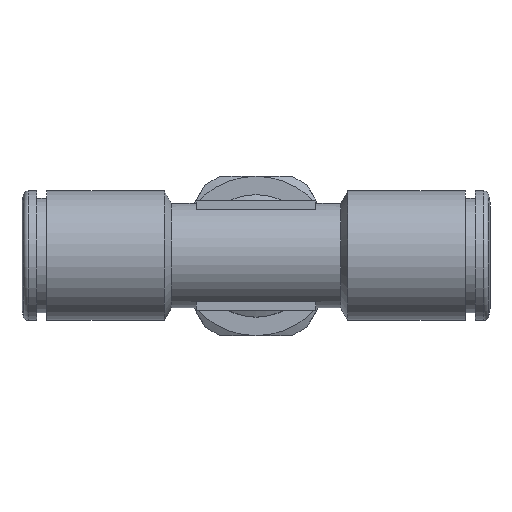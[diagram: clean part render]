
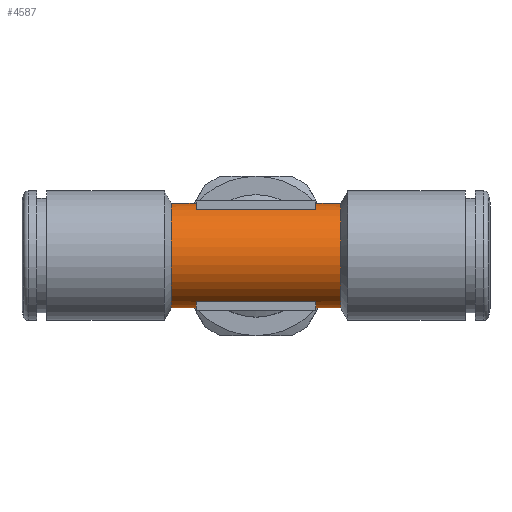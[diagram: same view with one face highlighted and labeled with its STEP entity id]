
A CAD part, top view. The second image highlights one B-rep face of the part: STEP entity #4587.
In plain terms, the highlighted cylindrical face has radius 5.25 mm (diameter 10.5 mm), a full revolution.
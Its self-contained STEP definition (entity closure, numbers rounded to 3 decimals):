
#12=ELLIPSE('',#4411,7.425,5.25);
#13=ELLIPSE('',#4414,7.425,5.25);
#1094=VECTOR('',#3549,1.);
#1095=VECTOR('',#3552,1.);
#1096=VECTOR('',#3555,1.);
#1097=VECTOR('',#3558,1.);
#1098=VECTOR('',#3561,1.);
#1099=VECTOR('',#3564,1.);
#1148=LINE('',#4043,#1094);
#1149=LINE('',#4047,#1095);
#1150=LINE('',#4051,#1096);
#1151=LINE('',#4055,#1097);
#1152=LINE('',#4059,#1098);
#1153=LINE('',#4063,#1099);
#1250=CYLINDRICAL_SURFACE('',#4407,5.25);
#1450=ORIENTED_EDGE('',*,*,#1969,.F.);
#1451=ORIENTED_EDGE('',*,*,#1970,.T.);
#1452=ORIENTED_EDGE('',*,*,#1971,.F.);
#1453=ORIENTED_EDGE('',*,*,#1972,.F.);
#1454=ORIENTED_EDGE('',*,*,#1973,.F.);
#1455=ORIENTED_EDGE('',*,*,#1974,.F.);
#1456=ORIENTED_EDGE('',*,*,#1975,.F.);
#1457=ORIENTED_EDGE('',*,*,#1976,.T.);
#1458=ORIENTED_EDGE('',*,*,#1977,.F.);
#1459=ORIENTED_EDGE('',*,*,#1978,.F.);
#1460=ORIENTED_EDGE('',*,*,#1979,.F.);
#1461=ORIENTED_EDGE('',*,*,#1980,.F.);
#1462=ORIENTED_EDGE('',*,*,#1981,.F.);
#1463=ORIENTED_EDGE('',*,*,#1982,.T.);
#1693=CIRCLE('',#4406,5.25);
#1694=CIRCLE('',#4408,5.25);
#1695=CIRCLE('',#4409,5.25);
#1696=CIRCLE('',#4410,5.25);
#1697=CIRCLE('',#4412,5.25);
#1698=CIRCLE('',#4413,5.25);
#1809=VERTEX_POINT('',#4036);
#1810=VERTEX_POINT('',#4039);
#1811=VERTEX_POINT('',#4041);
#1812=VERTEX_POINT('',#4042);
#1813=VERTEX_POINT('',#4044);
#1814=VERTEX_POINT('',#4046);
#1815=VERTEX_POINT('',#4048);
#1816=VERTEX_POINT('',#4050);
#1817=VERTEX_POINT('',#4052);
#1818=VERTEX_POINT('',#4054);
#1819=VERTEX_POINT('',#4056);
#1820=VERTEX_POINT('',#4058);
#1821=VERTEX_POINT('',#4060);
#1822=VERTEX_POINT('',#4062);
#1969=EDGE_CURVE('',#1809,#1809,#1693,.T.);
#1970=EDGE_CURVE('',#1810,#1810,#1694,.T.);
#1971=EDGE_CURVE('',#1811,#1812,#1148,.T.);
#1972=EDGE_CURVE('',#1813,#1811,#1695,.T.);
#1973=EDGE_CURVE('',#1814,#1813,#1149,.T.);
#1974=EDGE_CURVE('',#1815,#1814,#1696,.T.);
#1975=EDGE_CURVE('',#1816,#1815,#1150,.T.);
#1976=EDGE_CURVE('',#1816,#1817,#12,.T.);
#1977=EDGE_CURVE('',#1818,#1817,#1151,.T.);
#1978=EDGE_CURVE('',#1819,#1818,#1697,.T.);
#1979=EDGE_CURVE('',#1820,#1819,#1152,.T.);
#1980=EDGE_CURVE('',#1821,#1820,#1698,.T.);
#1981=EDGE_CURVE('',#1822,#1821,#1153,.T.);
#1982=EDGE_CURVE('',#1822,#1812,#13,.T.);
#2151=EDGE_LOOP('',(#1450));
#2152=EDGE_LOOP('',(#1451));
#2153=EDGE_LOOP('',(#1452,#1453,#1454,#1455,#1456,#1457,#1458,#1459,#1460,
#1461,#1462,#1463));
#2349=FACE_BOUND('',#2151,.T.);
#2350=FACE_BOUND('',#2152,.T.);
#2351=FACE_BOUND('',#2153,.T.);
#3543=DIRECTION('',(1.,0.,0.));
#3544=DIRECTION('',(0.,5.25,0.));
#3545=DIRECTION('',(-1.,0.,0.));
#3546=DIRECTION('',(0.,1.,0.));
#3547=DIRECTION('',(1.,0.,0.));
#3548=DIRECTION('',(0.,5.25,0.));
#3549=DIRECTION('',(3.5,0.,0.));
#3550=DIRECTION('',(1.,0.,0.));
#3551=DIRECTION('',(0.,2.5,4.617));
#3552=DIRECTION('',(-12.,0.,0.));
#3553=DIRECTION('',(-1.,0.,0.));
#3554=DIRECTION('',(0.,-2.5,4.617));
#3555=DIRECTION('',(3.5,0.,0.));
#3556=DIRECTION('',(0.707,0.707,0.));
#3557=DIRECTION('',(0.707,-0.707,0.));
#3558=DIRECTION('',(-3.5,0.,0.));
#3559=DIRECTION('',(-1.,0.,0.));
#3560=DIRECTION('',(0.,2.5,-4.617));
#3561=DIRECTION('',(12.,0.,0.));
#3562=DIRECTION('',(1.,0.,0.));
#3563=DIRECTION('',(0.,-2.5,-4.617));
#3564=DIRECTION('',(-3.5,0.,0.));
#3565=DIRECTION('',(-0.707,0.707,0.));
#3566=DIRECTION('',(-0.707,-0.707,0.));
#4036=CARTESIAN_POINT('',(33.945,42.731,0.));
#4037=CARTESIAN_POINT('',(33.945,37.481,0.));
#4038=CARTESIAN_POINT('',(33.945,37.481,0.));
#4039=CARTESIAN_POINT('',(16.945,42.731,0.));
#4040=CARTESIAN_POINT('',(16.945,37.481,0.));
#4041=CARTESIAN_POINT('',(19.445,34.981,4.617));
#4042=CARTESIAN_POINT('',(22.945,34.981,4.617));
#4043=CARTESIAN_POINT('',(19.445,34.981,4.617));
#4044=CARTESIAN_POINT('',(19.445,39.981,4.617));
#4045=CARTESIAN_POINT('',(19.445,37.481,0.));
#4046=CARTESIAN_POINT('',(31.445,39.981,4.617));
#4047=CARTESIAN_POINT('',(31.445,39.981,4.617));
#4048=CARTESIAN_POINT('',(31.445,34.981,4.617));
#4049=CARTESIAN_POINT('',(31.445,37.481,0.));
#4050=CARTESIAN_POINT('',(27.945,34.981,4.617));
#4051=CARTESIAN_POINT('',(27.945,34.981,4.617));
#4052=CARTESIAN_POINT('',(27.945,34.981,-4.617));
#4053=CARTESIAN_POINT('',(25.445,37.481,0.));
#4054=CARTESIAN_POINT('',(31.445,34.981,-4.617));
#4055=CARTESIAN_POINT('',(31.445,34.981,-4.617));
#4056=CARTESIAN_POINT('',(31.445,39.981,-4.617));
#4057=CARTESIAN_POINT('',(31.445,37.481,0.));
#4058=CARTESIAN_POINT('',(19.445,39.981,-4.617));
#4059=CARTESIAN_POINT('',(19.445,39.981,-4.617));
#4060=CARTESIAN_POINT('',(19.445,34.981,-4.617));
#4061=CARTESIAN_POINT('',(19.445,37.481,0.));
#4062=CARTESIAN_POINT('',(22.945,34.981,-4.617));
#4063=CARTESIAN_POINT('',(22.945,34.981,-4.617));
#4064=CARTESIAN_POINT('',(25.445,37.481,0.));
#4406=AXIS2_PLACEMENT_3D('',#4037,#3543,#3544);
#4407=AXIS2_PLACEMENT_3D('',#4038,#3545,#3546);
#4408=AXIS2_PLACEMENT_3D('',#4040,#3547,#3548);
#4409=AXIS2_PLACEMENT_3D('',#4045,#3550,#3551);
#4410=AXIS2_PLACEMENT_3D('',#4049,#3553,#3554);
#4411=AXIS2_PLACEMENT_3D('',#4053,#3556,#3557);
#4412=AXIS2_PLACEMENT_3D('',#4057,#3559,#3560);
#4413=AXIS2_PLACEMENT_3D('',#4061,#3562,#3563);
#4414=AXIS2_PLACEMENT_3D('',#4064,#3565,#3566);
#4587=ADVANCED_FACE('',(#2349,#2350,#2351),#1250,.T.);
